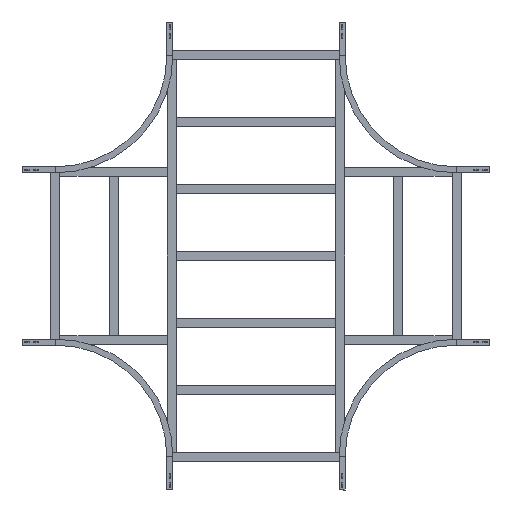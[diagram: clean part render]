
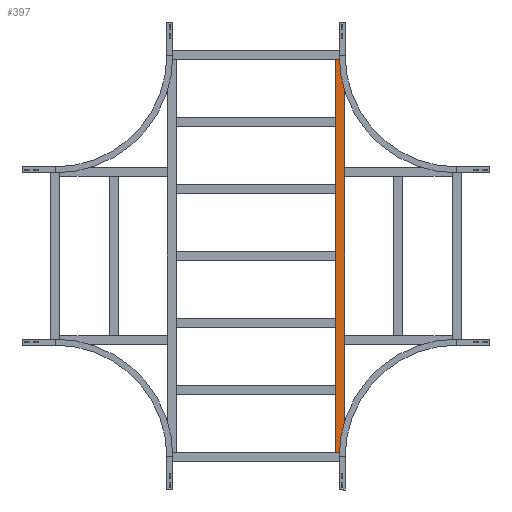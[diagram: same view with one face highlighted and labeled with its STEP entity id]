
A CAD part, front view. The second image highlights one B-rep face of the part: STEP entity #397.
In plain terms, the highlighted planar face has unit normal (0, -1, 0).
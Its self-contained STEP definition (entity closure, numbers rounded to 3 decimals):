
#157 = CARTESIAN_POINT ( 'NONE',  ( 879.75, 0., -20.25 ) ) ;
#167 = EDGE_CURVE ( 'NONE', #1141, #480, #1954, .T. ) ;
#168 = CARTESIAN_POINT ( 'NONE',  ( 879.75, 0., 20.25 ) ) ;
#301 = VECTOR ( 'NONE', #1563, 1000. ) ;
#351 = VECTOR ( 'NONE', #1247, 1000. ) ;
#397 = ADVANCED_FACE ( 'NONE', ( #1387 ), #512, .F. ) ;
#403 = LINE ( 'NONE', #168, #301 ) ;
#438 = EDGE_CURVE ( 'NONE', #1785, #2196, #2326, .T. ) ;
#469 = CARTESIAN_POINT ( 'NONE',  ( 879.75, 0., 20.25 ) ) ;
#480 = VERTEX_POINT ( 'NONE', #2781 ) ;
#512 = PLANE ( 'NONE',  #1694 ) ;
#565 = CARTESIAN_POINT ( 'NONE',  ( -879.75, 0., 20.25 ) ) ;
#655 = EDGE_CURVE ( 'NONE', #1141, #1785, #403, .T. ) ;
#906 = ORIENTED_EDGE ( 'NONE', *, *, #438, .F. ) ;
#1005 = ORIENTED_EDGE ( 'NONE', *, *, #2589, .T. ) ;
#1040 = CARTESIAN_POINT ( 'NONE',  ( -879.75, 0., -20.25 ) ) ;
#1141 = VERTEX_POINT ( 'NONE', #1775 ) ;
#1185 = CARTESIAN_POINT ( 'NONE',  ( 879.75, 0., -20.25 ) ) ;
#1247 = DIRECTION ( 'NONE',  ( -1., 0., 0. ) ) ;
#1387 = FACE_OUTER_BOUND ( 'NONE', #2348, .T. ) ;
#1414 = DIRECTION ( 'NONE',  ( 0., 1., 0. ) ) ;
#1417 = VECTOR ( 'NONE', #2390, 1000. ) ;
#1563 = DIRECTION ( 'NONE',  ( 0., 0., -1. ) ) ;
#1641 = DIRECTION ( 'NONE',  ( 0., 0., 1. ) ) ;
#1694 = AXIS2_PLACEMENT_3D ( 'NONE', #469, #1414, #1641 ) ;
#1736 = CARTESIAN_POINT ( 'NONE',  ( 879.75, 0., 20.25 ) ) ;
#1775 = CARTESIAN_POINT ( 'NONE',  ( 879.75, 0., 20.25 ) ) ;
#1785 = VERTEX_POINT ( 'NONE', #157 ) ;
#1871 = ORIENTED_EDGE ( 'NONE', *, *, #167, .T. ) ;
#1954 = LINE ( 'NONE', #1736, #351 ) ;
#2138 = LINE ( 'NONE', #565, #1417 ) ;
#2196 = VERTEX_POINT ( 'NONE', #1040 ) ;
#2326 = LINE ( 'NONE', #1185, #2779 ) ;
#2348 = EDGE_LOOP ( 'NONE', ( #1005, #906, #2482, #1871 ) ) ;
#2390 = DIRECTION ( 'NONE',  ( 0., 0., -1. ) ) ;
#2482 = ORIENTED_EDGE ( 'NONE', *, *, #655, .F. ) ;
#2589 = EDGE_CURVE ( 'NONE', #480, #2196, #2138, .T. ) ;
#2769 = DIRECTION ( 'NONE',  ( -1., 0., 0. ) ) ;
#2779 = VECTOR ( 'NONE', #2769, 1000. ) ;
#2781 = CARTESIAN_POINT ( 'NONE',  ( -879.75, 0., 20.25 ) ) ;
